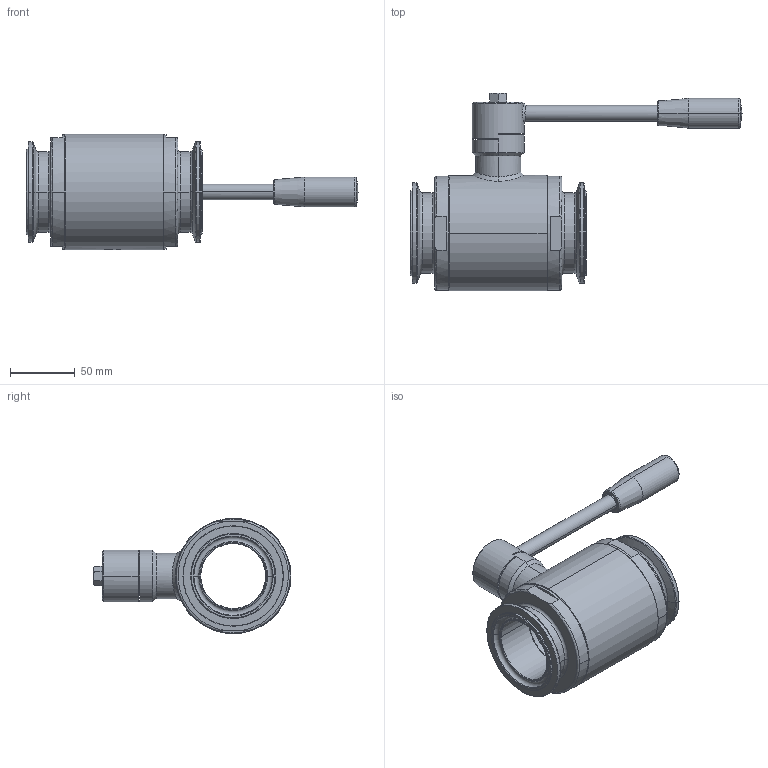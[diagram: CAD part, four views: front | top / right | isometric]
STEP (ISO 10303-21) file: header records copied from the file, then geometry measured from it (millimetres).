
FILE_DESCRIPTION((''),'2;1');
FILE_NAME('10016764010_SW0001','2026-09-15T14:42:24',('tecnico2'),('CDM Tecnoconsulting'),'CREO PARAMETRIC BY PTC INC, 2024063','CREO PARAMETRIC BY PTC INC, 2024063','');
FILE_SCHEMA(('CONFIG_CONTROL_DESIGN','SHAPE_APPEARANCE_LAYERS_GROUPS'));
Products named in the file (1): 10016764010_SW0001
Bounding box: 256 x 152.5 x 89 mm (x, y, z)
Volume: 520475.6 mm3; surface area: 136483.9 mm2
Topology: 1 solids, 1 shells, 870 faces, 2353 edges, 1495 vertices
Faces by surface type: plane 378, cylinder 156, extrusion 111, cone 100, bspline 61, torus 58, sphere 6
Entity records: 54027 total; most frequent: CARTESIAN_POINT 23681, ORIENTED_EDGE 4670, DIRECTION 3750, PRESENTATION_STYLE_ASSIGNMENT 2713, STYLED_ITEM 2391, CURVE_STYLE 2390, EDGE_CURVE 2335, VERTEX_POINT 1495
